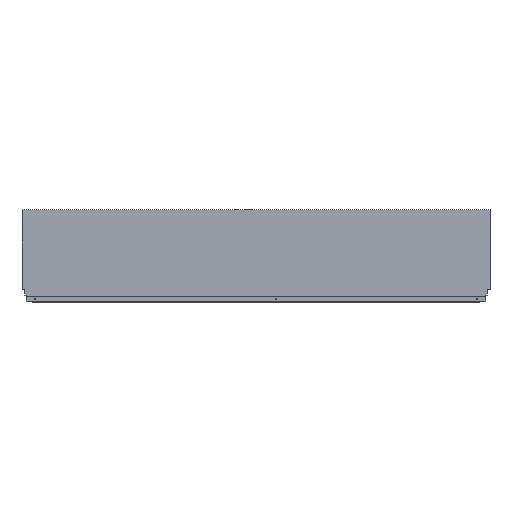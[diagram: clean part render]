
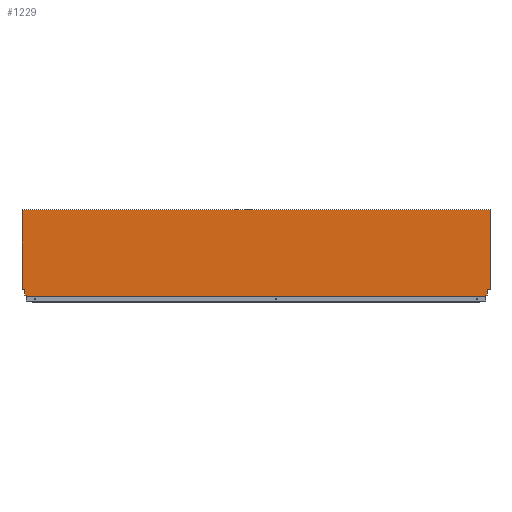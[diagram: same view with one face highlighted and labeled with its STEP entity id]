
A CAD part, top view. The second image highlights one B-rep face of the part: STEP entity #1229.
In plain terms, the highlighted planar face has unit normal (0, 0, 1).
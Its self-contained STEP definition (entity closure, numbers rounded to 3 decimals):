
#72 = FACE_OUTER_BOUND ( 'NONE', #1009, .T. ) ;
#130 = CARTESIAN_POINT ( 'NONE',  ( -1413., 260.7, 8. ) ) ;
#134 = CARTESIAN_POINT ( 'NONE',  ( -1399.996, 0., 8. ) ) ;
#135 = CARTESIAN_POINT ( 'NONE',  ( -8.9, 10.765, 8. ) ) ;
#181 = CARTESIAN_POINT ( 'NONE',  ( -1413., 0., 8. ) ) ;
#192 = PLANE ( 'NONE',  #506 ) ;
#195 = DIRECTION ( 'NONE',  ( 0., 0., 1. ) ) ;
#196 = DIRECTION ( 'NONE',  ( 1., 0., 0. ) ) ;
#203 = VECTOR ( 'NONE', #1462, 1000. ) ;
#204 = LINE ( 'NONE', #1463, #203 ) ;
#205 = LINE ( 'NONE', #1458, #208 ) ;
#206 = VECTOR ( 'NONE', #1460, 1000. ) ;
#207 = VECTOR ( 'NONE', #1466, 1000. ) ;
#208 = VECTOR ( 'NONE', #1457, 1000. ) ;
#268 = DIRECTION ( 'NONE',  ( 0., 1., 0. ) ) ;
#272 = CARTESIAN_POINT ( 'NONE',  ( -1399.996, 1.146, 8. ) ) ;
#288 = CARTESIAN_POINT ( 'NONE',  ( -1405.94, 21.2, 8. ) ) ;
#292 = CARTESIAN_POINT ( 'NONE',  ( -1399.996, 1.146, 8. ) ) ;
#302 = CARTESIAN_POINT ( 'NONE',  ( -8.9, 2.64, 8. ) ) ;
#304 = CARTESIAN_POINT ( 'NONE',  ( -1404.1, 2.64, 8. ) ) ;
#306 = CARTESIAN_POINT ( 'NONE',  ( -13.004, 1.146, 8. ) ) ;
#308 = CARTESIAN_POINT ( 'NONE',  ( 0., 260.7, 8. ) ) ;
#309 = CARTESIAN_POINT ( 'NONE',  ( -1404.1, 10.765, 8. ) ) ;
#312 = CARTESIAN_POINT ( 'NONE',  ( 0., 21.2, 8. ) ) ;
#314 = CARTESIAN_POINT ( 'NONE',  ( -1413., 21.2, 8. ) ) ;
#319 = CARTESIAN_POINT ( 'NONE',  ( -7.06, 21.2, 8. ) ) ;
#322 = CARTESIAN_POINT ( 'NONE',  ( -13.004, 0., 8. ) ) ;
#427 = EDGE_CURVE ( 'NONE', #1426, #1162, #664, .T. ) ;
#429 = EDGE_CURVE ( 'NONE', #1156, #1153, #666, .T. ) ;
#431 = EDGE_CURVE ( 'NONE', #1153, #1421, #668, .T. ) ;
#432 = EDGE_CURVE ( 'NONE', #1162, #1156, #518, .T. ) ;
#433 = EDGE_CURVE ( 'NONE', #1421, #1168, #791, .T. ) ;
#434 = EDGE_CURVE ( 'NONE', #1168, #1164, #1546, .T. ) ;
#435 = EDGE_CURVE ( 'NONE', #1426, #1152, #204, .T. ) ;
#436 = EDGE_CURVE ( 'NONE', #1164, #1155, #657, .T. ) ;
#437 = EDGE_CURVE ( 'NONE', #1178, #1166, #205, .T. ) ;
#438 = EDGE_CURVE ( 'NONE', #1166, #1161, #1150, .T. ) ;
#439 = EDGE_CURVE ( 'NONE', #1161, #1182, #1513, .T. ) ;
#440 = EDGE_CURVE ( 'NONE', #1182, #1152, #1134, .T. ) ;
#441 = EDGE_CURVE ( 'NONE', #1422, #1155, #1148, .T. ) ;
#444 = EDGE_CURVE ( 'NONE', #1422, #1178, #667, .T. ) ;
#506 = AXIS2_PLACEMENT_3D ( 'NONE', #181, #195, #196 ) ;
#517 = VECTOR ( 'NONE', #1470, 1000. ) ;
#518 = LINE ( 'NONE', #1471, #517 ) ;
#519 = VECTOR ( 'NONE', #1472, 1000. ) ;
#657 = LINE ( 'NONE', #1480, #206 ) ;
#661 = VECTOR ( 'NONE', #268, 1000. ) ;
#663 = VECTOR ( 'NONE', #1481, 1000. ) ;
#664 = LINE ( 'NONE', #1482, #663 ) ;
#665 = VECTOR ( 'NONE', #1476, 1000. ) ;
#666 = LINE ( 'NONE', #1478, #665 ) ;
#667 = LINE ( 'NONE', #272, #661 ) ;
#668 = LINE ( 'NONE', #1473, #519 ) ;
#771 = ORIENTED_EDGE ( 'NONE', *, *, #427, .F. ) ;
#772 = ORIENTED_EDGE ( 'NONE', *, *, #432, .F. ) ;
#773 = ORIENTED_EDGE ( 'NONE', *, *, #429, .F. ) ;
#774 = ORIENTED_EDGE ( 'NONE', *, *, #431, .F. ) ;
#775 = ORIENTED_EDGE ( 'NONE', *, *, #433, .F. ) ;
#781 = ORIENTED_EDGE ( 'NONE', *, *, #435, .T. ) ;
#782 = ORIENTED_EDGE ( 'NONE', *, *, #440, .F. ) ;
#783 = ORIENTED_EDGE ( 'NONE', *, *, #439, .F. ) ;
#784 = ORIENTED_EDGE ( 'NONE', *, *, #438, .F. ) ;
#785 = ORIENTED_EDGE ( 'NONE', *, *, #437, .F. ) ;
#786 = ORIENTED_EDGE ( 'NONE', *, *, #444, .F. ) ;
#787 = ORIENTED_EDGE ( 'NONE', *, *, #441, .T. ) ;
#788 = ORIENTED_EDGE ( 'NONE', *, *, #434, .F. ) ;
#789 = ORIENTED_EDGE ( 'NONE', *, *, #436, .F. ) ;
#790 = VECTOR ( 'NONE', #1468, 1000. ) ;
#791 = LINE ( 'NONE', #1469, #790 ) ;
#1009 = EDGE_LOOP ( 'NONE', ( #781, #782, #783, #784, #785, #786, #787, #789, #788, #775, #774, #773, #772, #771 ) ) ;
#1134 = LINE ( 'NONE', #1452, #1149 ) ;
#1147 = VECTOR ( 'NONE', #1449, 1000. ) ;
#1148 = LINE ( 'NONE', #1450, #1147 ) ;
#1149 = VECTOR ( 'NONE', #1451, 1000. ) ;
#1150 = LINE ( 'NONE', #1456, #1511 ) ;
#1152 = VERTEX_POINT ( 'NONE', #314 ) ;
#1153 = VERTEX_POINT ( 'NONE', #319 ) ;
#1155 = VERTEX_POINT ( 'NONE', #322 ) ;
#1156 = VERTEX_POINT ( 'NONE', #312 ) ;
#1161 = VERTEX_POINT ( 'NONE', #309 ) ;
#1162 = VERTEX_POINT ( 'NONE', #308 ) ;
#1164 = VERTEX_POINT ( 'NONE', #306 ) ;
#1166 = VERTEX_POINT ( 'NONE', #304 ) ;
#1168 = VERTEX_POINT ( 'NONE', #302 ) ;
#1178 = VERTEX_POINT ( 'NONE', #292 ) ;
#1182 = VERTEX_POINT ( 'NONE', #288 ) ;
#1229 = ADVANCED_FACE ( 'NONE', ( #72 ), #192, .T. ) ;
#1421 = VERTEX_POINT ( 'NONE', #135 ) ;
#1422 = VERTEX_POINT ( 'NONE', #134 ) ;
#1426 = VERTEX_POINT ( 'NONE', #130 ) ;
#1449 = DIRECTION ( 'NONE',  ( 1., 0., 0. ) ) ;
#1450 = CARTESIAN_POINT ( 'NONE',  ( -1413., 0., 8. ) ) ;
#1451 = DIRECTION ( 'NONE',  ( -1., 0., 0. ) ) ;
#1452 = CARTESIAN_POINT ( 'NONE',  ( -1418., 21.2, 8. ) ) ;
#1453 = DIRECTION ( 'NONE',  ( -0.174, 0.985, 0. ) ) ;
#1454 = CARTESIAN_POINT ( 'NONE',  ( -1405.94, 21.2, 8. ) ) ;
#1455 = DIRECTION ( 'NONE',  ( 0., 1., 0. ) ) ;
#1456 = CARTESIAN_POINT ( 'NONE',  ( -1404.1, 10.765, 8. ) ) ;
#1457 = DIRECTION ( 'NONE',  ( -0.94, 0.342, 0. ) ) ;
#1458 = CARTESIAN_POINT ( 'NONE',  ( -1404.1, 2.64, 8. ) ) ;
#1460 = DIRECTION ( 'NONE',  ( 0., -1., 0. ) ) ;
#1462 = DIRECTION ( 'NONE',  ( 0., -1., 0. ) ) ;
#1463 = CARTESIAN_POINT ( 'NONE',  ( -1413., 0., 8. ) ) ;
#1466 = DIRECTION ( 'NONE',  ( -0.94, -0.342, 0. ) ) ;
#1467 = CARTESIAN_POINT ( 'NONE',  ( -8.9, 2.64, 8. ) ) ;
#1468 = DIRECTION ( 'NONE',  ( 0., -1., 0. ) ) ;
#1469 = CARTESIAN_POINT ( 'NONE',  ( -8.9, 10.765, 8. ) ) ;
#1470 = DIRECTION ( 'NONE',  ( 0., -1., 0. ) ) ;
#1471 = CARTESIAN_POINT ( 'NONE',  ( 0., 0., 8. ) ) ;
#1472 = DIRECTION ( 'NONE',  ( -0.174, -0.985, 0. ) ) ;
#1473 = CARTESIAN_POINT ( 'NONE',  ( -7.06, 21.2, 8. ) ) ;
#1476 = DIRECTION ( 'NONE',  ( -1., 0., 0. ) ) ;
#1478 = CARTESIAN_POINT ( 'NONE',  ( 0., 21.2, 8. ) ) ;
#1480 = CARTESIAN_POINT ( 'NONE',  ( -13.004, 1.146, 8. ) ) ;
#1481 = DIRECTION ( 'NONE',  ( 1., 0., 0. ) ) ;
#1482 = CARTESIAN_POINT ( 'NONE',  ( -1413., 260.7, 8. ) ) ;
#1511 = VECTOR ( 'NONE', #1455, 1000. ) ;
#1513 = LINE ( 'NONE', #1454, #1522 ) ;
#1522 = VECTOR ( 'NONE', #1453, 1000. ) ;
#1546 = LINE ( 'NONE', #1467, #207 ) ;
